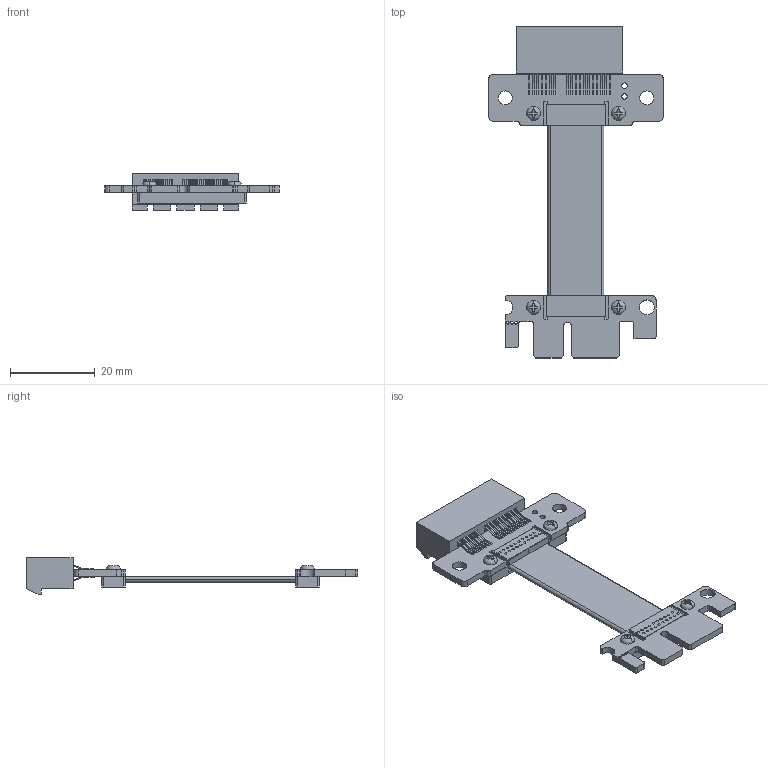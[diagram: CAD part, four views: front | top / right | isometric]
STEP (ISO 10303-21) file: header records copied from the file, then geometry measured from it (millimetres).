
FILE_DESCRIPTION(('Open CASCADE Model'),'2;1');
FILE_NAME('Open CASCADE Shape Model','2020-03-05T08:10:40',('Author'),( 'Open CASCADE'),'Open CASCADE STEP processor 6.8','Open CASCADE 6.8' ,'Unknown');
FILE_SCHEMA(('AUTOMOTIVE_DESIGN { 1 0 10303 214 1 1 1 1 }'));
Length unit declared in the file: millimetre
Products named in the file (12): PCB; Board; Open CASCADE STEP translator 6.8 4.1.1; Free-Models; G0033_RGB9411503; Hexagon_nut_ISO_4032_(DIN_934)_-_M2_RGB9411503; Tape14x5_RGB0; RP11S-PAD; PCIe_x1_標啣敕諳_PCIE-036-02-S-D-EMS2_RGB4404530; _PCIE-036-02-S-D-EMS2_body; _PCIE-036-02-S-D-EMS2_pins1; cable20-43
Assembly tree (19 placements, depth 4):
  PCB
    Board
      Open CASCADE STEP translator 6.8 4.1.1
    Free-Models
      G0033_RGB9411503  x4
      Hexagon_nut_ISO_4032_(DIN_934)_-_M2_RGB9411503  x4
      Tape14x5_RGB0  x2
      RP11S-PAD  x2
      PCIe_x1_標啣敕諳_PCIE-036-02-S-D-EMS2_RGB4404530
        _PCIE-036-02-S-D-EMS2_body
        _PCIE-036-02-S-D-EMS2_pins1
      cable20-43
Bounding box: 41.03 x 78.15 x 8.7 mm (x, y, z)
Volume: 3930.2 mm3; surface area: 10445.5 mm2
Topology: 57 solids, 57 shells, 2253 faces, 6428 edges, 4228 vertices
Faces by surface type: plane 1348, cylinder 769, torus 80, cone 48, revolution 8
Full cylindrical faces by diameter (mm): 0.6 x43, 1.3 x2, 2.2 x8, 3.3 x2, 3.5 x1, 4.8 x4
Entity records: 84347 total; most frequent: CARTESIAN_POINT 12288, ORIENTED_EDGE 12072, DIRECTION 11844, EDGE_CURVE 6036, LINE 4358, VECTOR 4358, VERTEX_POINT 3978, AXIS2_PLACEMENT_3D 3742
